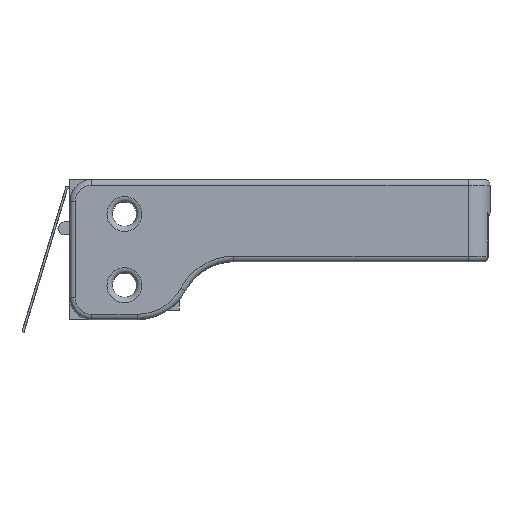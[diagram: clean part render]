
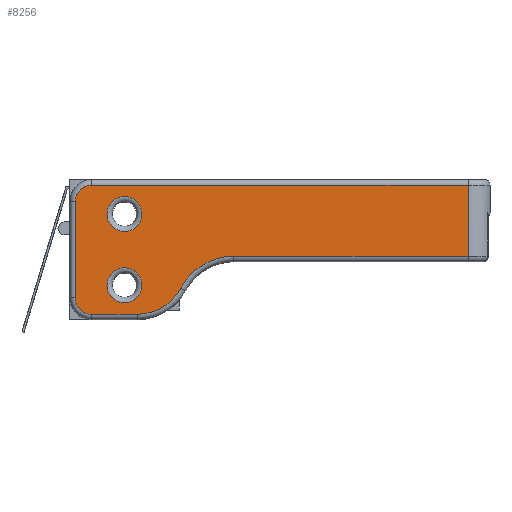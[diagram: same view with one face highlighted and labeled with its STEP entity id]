
A CAD part, left-side view. The second image highlights one B-rep face of the part: STEP entity #8256.
In plain terms, the highlighted planar face has unit normal (-1, 0, 0).
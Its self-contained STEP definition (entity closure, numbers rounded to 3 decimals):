
#458=FACE_BOUND('',#1580,.T.);
#459=FACE_BOUND('',#1581,.T.);
#514=CIRCLE('',#8753,1.6);
#518=CIRCLE('',#8758,1.5);
#519=CIRCLE('',#8759,1.5);
#520=CIRCLE('',#8760,4.5);
#521=CIRCLE('',#8761,5.5);
#522=CIRCLE('',#8762,1.6);
#1068=FACE_OUTER_BOUND('',#1579,.T.);
#1579=EDGE_LOOP('',(#7002,#7003,#7004,#7005,#7006,#7007,#7008,#7009,#7010));
#1580=EDGE_LOOP('',(#7011));
#1581=EDGE_LOOP('',(#7012));
#2383=LINE('',#18490,#3168);
#2384=LINE('',#18494,#3169);
#2385=LINE('',#18498,#3170);
#2386=LINE('',#18504,#3171);
#2387=LINE('',#18505,#3172);
#3168=VECTOR('',#10289,10.);
#3169=VECTOR('',#10292,10.);
#3170=VECTOR('',#10295,10.);
#3171=VECTOR('',#10300,10.);
#3172=VECTOR('',#10301,10.);
#3888=VERTEX_POINT('',#18480);
#3891=VERTEX_POINT('',#18488);
#3892=VERTEX_POINT('',#18489);
#3893=VERTEX_POINT('',#18491);
#3894=VERTEX_POINT('',#18493);
#3895=VERTEX_POINT('',#18495);
#3896=VERTEX_POINT('',#18497);
#3897=VERTEX_POINT('',#18499);
#3898=VERTEX_POINT('',#18501);
#3899=VERTEX_POINT('',#18503);
#3900=VERTEX_POINT('',#18506);
#4945=EDGE_CURVE('',#3888,#3888,#514,.T.);
#4949=EDGE_CURVE('',#3891,#3892,#2383,.T.);
#4950=EDGE_CURVE('',#3893,#3891,#518,.T.);
#4951=EDGE_CURVE('',#3894,#3893,#2384,.T.);
#4952=EDGE_CURVE('',#3895,#3894,#519,.T.);
#4953=EDGE_CURVE('',#3896,#3895,#2385,.T.);
#4954=EDGE_CURVE('',#3897,#3896,#520,.T.);
#4955=EDGE_CURVE('',#3898,#3897,#521,.T.);
#4956=EDGE_CURVE('',#3899,#3898,#2386,.T.);
#4957=EDGE_CURVE('',#3892,#3899,#2387,.T.);
#4958=EDGE_CURVE('',#3900,#3900,#522,.T.);
#7002=ORIENTED_EDGE('',*,*,#4949,.F.);
#7003=ORIENTED_EDGE('',*,*,#4950,.F.);
#7004=ORIENTED_EDGE('',*,*,#4951,.F.);
#7005=ORIENTED_EDGE('',*,*,#4952,.F.);
#7006=ORIENTED_EDGE('',*,*,#4953,.F.);
#7007=ORIENTED_EDGE('',*,*,#4954,.F.);
#7008=ORIENTED_EDGE('',*,*,#4955,.F.);
#7009=ORIENTED_EDGE('',*,*,#4956,.F.);
#7010=ORIENTED_EDGE('',*,*,#4957,.F.);
#7011=ORIENTED_EDGE('',*,*,#4958,.F.);
#7012=ORIENTED_EDGE('',*,*,#4945,.F.);
#7895=PLANE('',#8757);
#8256=ADVANCED_FACE('',(#1068,#458,#459),#7895,.T.);
#8753=AXIS2_PLACEMENT_3D('',#18481,#10279,#10280);
#8757=AXIS2_PLACEMENT_3D('',#18487,#10287,#10288);
#8758=AXIS2_PLACEMENT_3D('',#18492,#10290,#10291);
#8759=AXIS2_PLACEMENT_3D('',#18496,#10293,#10294);
#8760=AXIS2_PLACEMENT_3D('',#18500,#10296,#10297);
#8761=AXIS2_PLACEMENT_3D('',#18502,#10298,#10299);
#8762=AXIS2_PLACEMENT_3D('',#18507,#10302,#10303);
#10279=DIRECTION('center_axis',(-1.,0.,0.));
#10280=DIRECTION('ref_axis',(0.,-1.,0.));
#10287=DIRECTION('center_axis',(-1.,0.,0.));
#10288=DIRECTION('ref_axis',(0.,-1.,0.));
#10289=DIRECTION('',(0.,-1.,0.));
#10290=DIRECTION('center_axis',(1.,0.,0.));
#10291=DIRECTION('ref_axis',(0.,0.707,0.707));
#10292=DIRECTION('',(0.,0.,1.));
#10293=DIRECTION('center_axis',(1.,0.,0.));
#10294=DIRECTION('ref_axis',(0.,0.707,-0.707));
#10295=DIRECTION('',(0.,1.,0.));
#10296=DIRECTION('center_axis',(1.,0.,0.));
#10297=DIRECTION('ref_axis',(0.,-0.515,-0.857));
#10298=DIRECTION('center_axis',(-1.,0.,0.));
#10299=DIRECTION('ref_axis',(0.,0.515,0.857));
#10300=DIRECTION('',(0.,1.,0.));
#10301=DIRECTION('',(0.,0.,-1.));
#10302=DIRECTION('center_axis',(-1.,0.,0.));
#10303=DIRECTION('ref_axis',(0.,-1.,0.));
#18480=CARTESIAN_POINT('',(11.,-175.85,-1.55));
#18481=CARTESIAN_POINT('Origin',(11.,-175.85,-3.15));
#18487=CARTESIAN_POINT('Origin',(11.,-190.05,-6.4));
#18488=CARTESIAN_POINT('',(11.,-172.85,-0.5));
#18489=CARTESIAN_POINT('',(11.,-207.25,-0.5));
#18490=CARTESIAN_POINT('',(11.,-199.65,-0.5));
#18491=CARTESIAN_POINT('',(11.,-171.35,-2.));
#18492=CARTESIAN_POINT('Origin',(11.,-172.85,-2.));
#18493=CARTESIAN_POINT('',(11.,-171.35,-10.8));
#18494=CARTESIAN_POINT('',(11.,-171.35,-3.2));
#18495=CARTESIAN_POINT('',(11.,-172.85,-12.3));
#18496=CARTESIAN_POINT('Origin',(11.,-172.85,-10.8));
#18497=CARTESIAN_POINT('',(11.,-177.023,-12.3));
#18498=CARTESIAN_POINT('',(11.,-180.45,-12.3));
#18499=CARTESIAN_POINT('',(11.,-180.995,-9.915));
#18500=CARTESIAN_POINT('Origin',(11.,-177.023,-7.8));
#18501=CARTESIAN_POINT('',(11.,-185.85,-7.));
#18502=CARTESIAN_POINT('Origin',(11.,-185.85,-12.5));
#18503=CARTESIAN_POINT('',(11.,-207.25,-7.));
#18504=CARTESIAN_POINT('',(11.,-185.45,-7.));
#18505=CARTESIAN_POINT('',(11.,-207.25,-6.95));
#18506=CARTESIAN_POINT('',(11.,-175.85,-8.05));
#18507=CARTESIAN_POINT('Origin',(11.,-175.85,-9.65));
